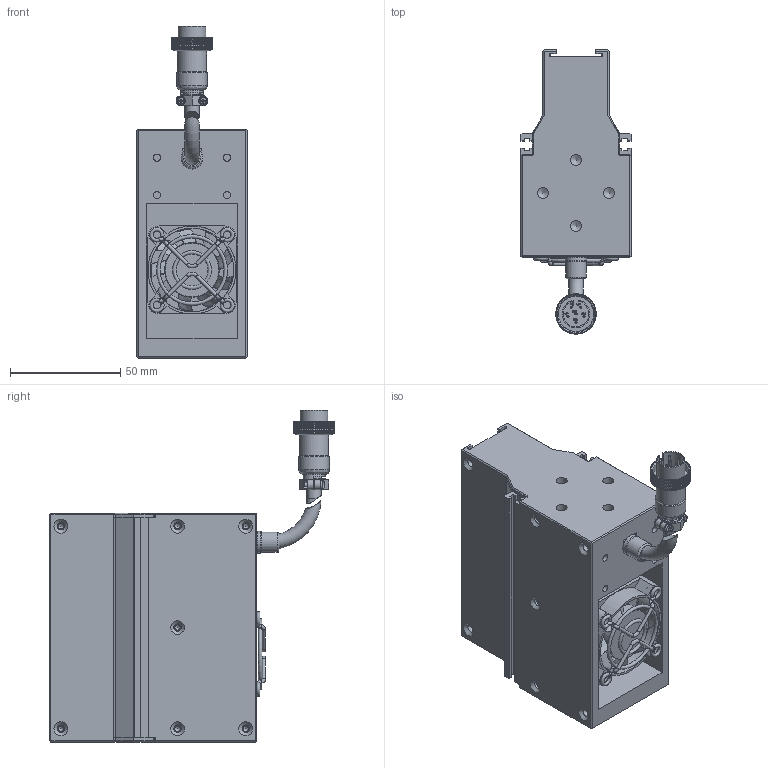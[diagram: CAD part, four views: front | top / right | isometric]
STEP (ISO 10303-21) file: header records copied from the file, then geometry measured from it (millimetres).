
FILE_DESCRIPTION (( 'STEP AP203' ), '1' );
FILE_NAME ('OPT-LSS104-W-V3.1尨砩芞.STEP', '2025-01-20T06:50:38', ( 'USER' ), ( '' ), 'SwSTEP 2.0', 'SolidWorks 2016', '' );
FILE_SCHEMA (( 'CONFIG_CONTROL_DESIGN' ));
Products named in the file (2): OPT-LSS104-W-V3.1尨砩芞
Bounding box: 50 x 129.15 x 150.83 mm (x, y, z)
Volume: 365372.9 mm3; surface area: 72234.4 mm2
Topology: 9 solids, 17 shells, 3463 faces, 7639 edges, 4256 vertices
Faces by surface type: bspline 2086, cylinder 678, plane 609, torus 45, cone 45
Full cylindrical faces by diameter (mm): 0.95 x6, 1.1 x2, 1.4 x2, 1.6 x4, 2 x5, 2.5 x14, 3.2 x8, 3.4 x14, 4 x4, 5 x8, 6.2 x4, 6.4 x3, 7.5 x1, 8.6 x1, 9.3 x1, 9.8 x1, 10 x1, 13.2 x1, 14 x1, 16.1 x1, 24.8 x1, 38 x1
Entity records: 117542 total; most frequent: CARTESIAN_POINT 60809, ORIENTED_EDGE 14850, EDGE_CURVE 7425, B_SPLINE_CURVE_WITH_KNOTS 5447, DIRECTION 5134, VERTEX_POINT 4201, EDGE_LOOP 3694, FACE_OUTER_BOUND 3573
